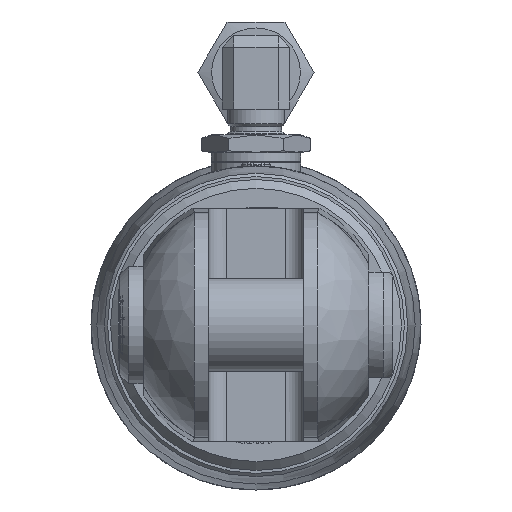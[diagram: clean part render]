
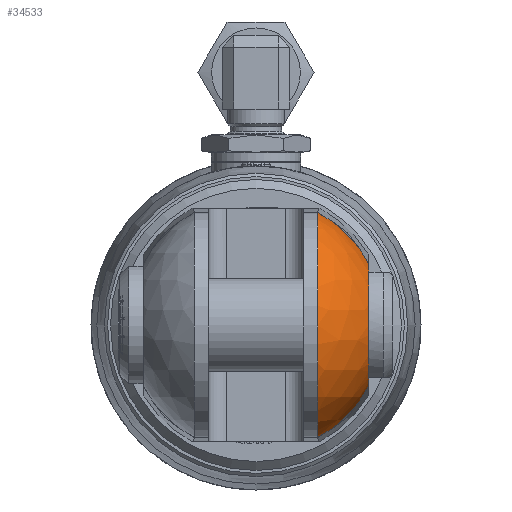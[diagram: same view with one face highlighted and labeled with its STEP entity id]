
A CAD part, left-side view. The second image highlights one B-rep face of the part: STEP entity #34533.
In plain terms, the highlighted spherical face has radius 21.732 mm.
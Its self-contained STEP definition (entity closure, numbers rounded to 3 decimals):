
#20=SPHERICAL_SURFACE('',#36099,21.732);
#2985=CIRCLE('',#36093,10.447);
#2990=CIRCLE('',#36100,21.729);
#2991=CIRCLE('',#36101,19.056);
#2992=CIRCLE('',#36102,21.729);
#5937=FACE_OUTER_BOUND('',#7882,.T.);
#7882=EDGE_LOOP('',(#32068,#32069,#32070,#32071));
#18135=VERTEX_POINT('',#63057);
#18136=VERTEX_POINT('',#63058);
#18148=VERTEX_POINT('',#63095);
#18149=VERTEX_POINT('',#63097);
#22818=EDGE_CURVE('',#18135,#18136,#2985,.T.);
#22833=EDGE_CURVE('',#18148,#18136,#2990,.T.);
#22834=EDGE_CURVE('',#18148,#18149,#2991,.T.);
#22835=EDGE_CURVE('',#18135,#18149,#2992,.T.);
#32068=ORIENTED_EDGE('',*,*,#22818,.T.);
#32069=ORIENTED_EDGE('',*,*,#22833,.F.);
#32070=ORIENTED_EDGE('',*,*,#22834,.T.);
#32071=ORIENTED_EDGE('',*,*,#22835,.F.);
#34533=ADVANCED_FACE('',(#5937),#20,.T.);
#36093=AXIS2_PLACEMENT_3D('',#63059,#41976,#41977);
#36099=AXIS2_PLACEMENT_3D('',#63094,#41994,#41995);
#36100=AXIS2_PLACEMENT_3D('',#63096,#41996,#41997);
#36101=AXIS2_PLACEMENT_3D('',#63098,#41998,#41999);
#36102=AXIS2_PLACEMENT_3D('',#63099,#42000,#42001);
#41976=DIRECTION('center_axis',(0.,1.,0.));
#41977=DIRECTION('ref_axis',(0.,0.,
1.));
#41994=DIRECTION('center_axis',(0.,0.,1.));
#41995=DIRECTION('ref_axis',(-1.,0.,0.));
#41996=DIRECTION('center_axis',(1.,0.,0.));
#41997=DIRECTION('ref_axis',(0.,0.,
1.));
#41998=DIRECTION('center_axis',(0.,-1.,0.));
#41999=DIRECTION('ref_axis',(-0.018,0.,
1.));
#42000=DIRECTION('center_axis',(1.,0.,0.));
#42001=DIRECTION('ref_axis',(0.,0.,
1.));
#63057=CARTESIAN_POINT('',(-723.635,-19.056,-10.441));
#63058=CARTESIAN_POINT('',(-723.635,-19.056,10.441));
#63059=CARTESIAN_POINT('Origin',(-723.268,-19.056,0.));
#63094=CARTESIAN_POINT('Origin',(-723.268,0.,
0.));
#63095=CARTESIAN_POINT('',(-723.635,-10.447,19.052));
#63096=CARTESIAN_POINT('Origin',(-723.635,0.,
0.));
#63097=CARTESIAN_POINT('',(-723.635,-10.447,-19.052));
#63098=CARTESIAN_POINT('Origin',(-723.268,-10.447,0.));
#63099=CARTESIAN_POINT('Origin',(-723.635,0.,
0.));
